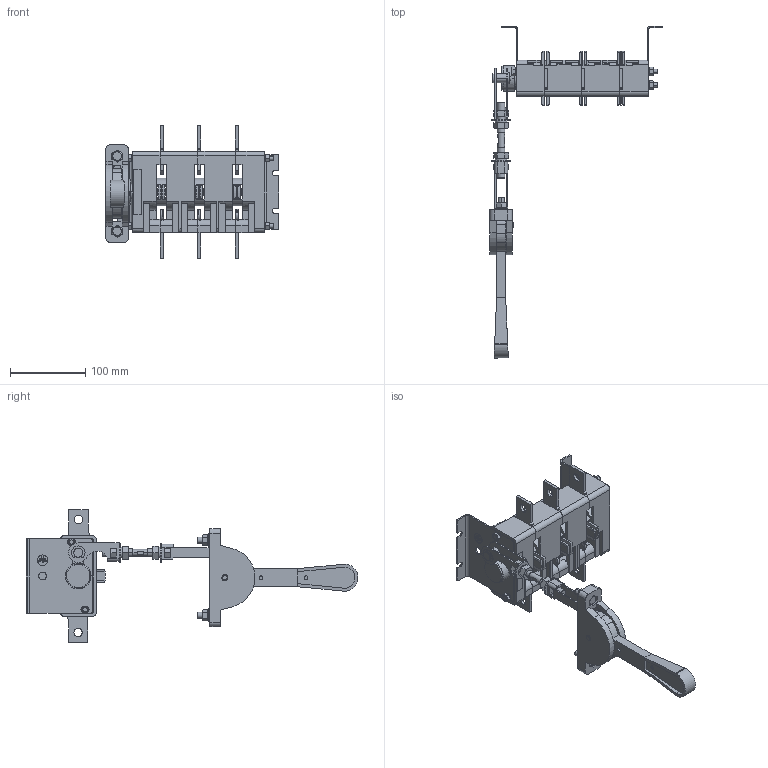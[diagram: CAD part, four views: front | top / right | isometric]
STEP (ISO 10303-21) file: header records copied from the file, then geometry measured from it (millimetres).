
FILE_DESCRIPTION (( 'STEP AP214' ), '1' );
FILE_NAME ('ﾂﾐ32-37ﾔ ﾃﾆﾈﾊ.642523.008-09 (ﾀ30240-400ﾀ).STEP', '2022-07-14T11:07:29', ( '' ), ( '' ), 'SwSTEP 2.0', 'SolidWorks 2018', '' );
FILE_SCHEMA (( 'AUTOMOTIVE_DESIGN' ));
Length unit declared in the file: millimetre
Products named in the file (51): Ðóêîÿòêà_ÃÆÈÊ.303658.012ÑÁ; ﾂﾐ32-37ﾔ ﾃﾆﾈﾊ.642523.008-09 (ﾀ30240-400ﾀ); 澡犟囹铕 闷仁.745484.003; Êîðïóñ ñðåäíèé ÃÆÈÊ.735384.046; ﾘ琺矜 6 65ﾃ 016; ﾂ鏆鮏 ﾃﾆﾈﾊ.745485.005; Ðóêîÿòêà ÃÆÈÊ.303658.014; ﾏ跖浯 ﾃﾆﾈﾊ.753553.010; ﾘ琺矜 10 65ﾃ 016; îñü023; 殃钺郷闷仁.301535.004蚜; 挓鎀霠罻_100-400; ﾏ跖浯_ﾃﾆﾈﾊ.753553.011_-01 (癸ｮ爼); Êîðïóñ_ÃÆÈÊ.735384.053_¤«ï ç¥àâ¥¦ ; Ãàéêà 2Ì8-6Í.5.016; 暑痫篑 镳噔 闷仁.735384.045; ﾂ琿 ﾃﾆﾈﾊ.715274.003; ﾘ琺矜 ⅰⅱ浯 ﾃﾆﾈﾊ.758491.067; 仫桦郷闷仁.758292.007; Øïèëüêà Ì6 ÃÆÈÊ.758292.005; Áîêîâèíà ïðàâàÿ ÃÆÈÊ.735224.026; Áîêîâèíà ëåâàÿ ÃÆÈÊ.735224.027; Ïðóæ014(13)_¤«ï á¡®àª¨; Êîðïóñ ëåâûé ÃÆÈÊ.735384.047; Ãàéêà 2Ì6-6Í.5.016; 务黖闷仁.715411.024; Êîíòàêò ïîäâèæíûé_ÃÆÈÊ.745355.013; Áîëò Ì8õ25.58.019; 婰膲僗闉010; Ðóêîÿòêà_ÃÆÈÊ.303658.018; ﾘ琺矜 8.01.019; ﾏ魵鮏鶴 ﾃﾆﾈﾊ.304594.012Cﾁ; Ãàéêà 2Ì10-6Í.5.016; ﾘ琺矜 8 65ﾃ 016; Øàéáà ñïåöèàëüíàÿ; ﾏ魵鮏鶴ﾃﾆﾈﾊ.741321.006; Ñêîáà010; Òàáëè÷êà äëÿ ñáîðêè ÷èñòàÿ áîëüøàÿ; Êîíòàêò ïîäâèæíûé ÃÆÈÊ.685179.145; 瀇僔蠂縺019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
Assembly tree (82 placements, depth 5):
  ﾂﾐ32-37ﾔ ﾃﾆﾈﾊ.642523.008-09 (ﾀ30240-400ﾀ)
    ﾂ琿 ﾃﾆﾈﾊ.715274.003
    Êîðïóñ ëåâûé ÃÆÈÊ.735384.047
    Êîðïóñ ñðåäíèé ÃÆÈÊ.735384.046  x2
    暑痫篑 镳噔 闷仁.735384.045
    Áîêîâèíà ëåâàÿ ÃÆÈÊ.735224.027
    Áîêîâèíà ïðàâàÿ ÃÆÈÊ.735224.026
    Êîíòàêò ïîäâèæíûé ÃÆÈÊ.685179.145  x3
      Êîíòàêò ïîäâèæíûé_ÃÆÈÊ.745355.013
      想囫蜩磬_闷仁.745355.007
      澡犟囹铕_闷仁.745484.006
      务黖闷仁.715411.019
      ﾏ跖浯_ﾃﾆﾈﾊ.753553.011_-01 (癸ｮ爼)
    Øïèëüêà Ì6 ÃÆÈÊ.758292.005  x2
    Ãàéêà 2Ì6-6Í.5.016  x4
    ﾘ琺矜 6 65ﾃ 016  x4
    ﾏ跖浯 ﾃﾆﾈﾊ.753553.010  x2
    澡犟囹铕 闷仁.745484.003  x2
    ﾂ鏆鮏 ﾃﾆﾈﾊ.745485.005  x6
    Ðóêîÿòêà ÃÆÈÊ.303658.014
      Êîðïóñ_ÃÆÈÊ.735384.053_¤«ï ç¥àâ¥¦ 
      Ðóêîÿòêà_ÃÆÈÊ.303658.012ÑÁ
        瀇僔蠂縺019
        挓鎀霠罻
      îñü023
      Ñêîáà010
      婰膲僗闉010
      Ïðóæ014(13)_¤«ï á¡®àª¨
      殃钺郷闷仁.301535.003蚜
        Ãàéêà 2Ì10-6Í.5.016
        殃钺郷闷仁.745327.019_帷獱
      务黖闷仁.715411.024
      仫桦郷闷仁.758292.007
      殃钺郷闷仁.301535.004蚜
        殃钺郷闷仁.745327.027_帷獱
        Ãàéêà 2Ì10-6Í.5.016
      Ðóêîÿòêà_ÃÆÈÊ.303658.018
        ﾏ魵鮏鶴 ﾃﾆﾈﾊ.304594.012Cﾁ
          ﾏ魵鮏鶴ﾃﾆﾈﾊ.741321.006
          ﾎ_ﾃﾆﾈﾊ.715411.027_-01 (癸ｮ爼)
          想囫蜩磬_闷仁.745355.029
        挓鎀霠罻_100-400
      Ãàéêà 2Ì10-6Í.5.016  x2
      ﾘ琺矜 ⅰⅱ浯 ﾃﾆﾈﾊ.758491.067
      青汶篪赅_闷仁.735211.002
      Áîëò Ì8õ25.58.019  x2
      ﾘ琺矜 8.01.019  x2
      ﾘ琺矜 8 65ﾃ 016  x2
      Ãàéêà 2Ì8-6Í.5.016  x2
      Øàéáà ñïåöèàëüíàÿ  x2
      ﾘ琺矜 10 65ﾃ 016  x2
    Òàáëè÷êà äëÿ ñáîðêè ÷èñòàÿ
    Òàáëè÷êà äëÿ ñáîðêè ÷èñòàÿ áîëüøàÿ
Bounding box: 231.1 x 441.54 x 176.5 mm (x, y, z)
Volume: 704749.5 mm3; surface area: 407027.2 mm2
Topology: 95 solids, 95 shells, 2761 faces, 6820 edges, 4336 vertices
Faces by surface type: plane 1601, cylinder 935, cone 106, bspline 93, torus 20, sphere 6
Entity records: 59641 total; most frequent: CARTESIAN_POINT 17508, DIRECTION 8250, ORIENTED_EDGE 7746, EDGE_CURVE 3873, AXIS2_PLACEMENT_3D 2924, VERTEX_POINT 2510, LINE 2402, VECTOR 2402
